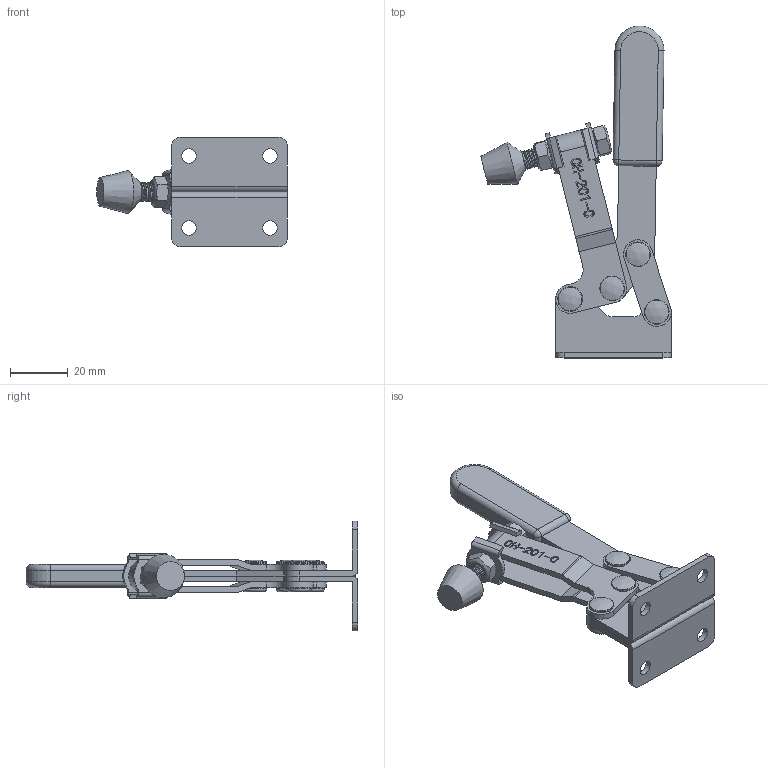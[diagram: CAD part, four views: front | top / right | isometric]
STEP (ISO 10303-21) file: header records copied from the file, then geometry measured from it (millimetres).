
FILE_DESCRIPTION(/* description */ ('STEP AP203'),/* implementation_level */ '2;1');
FILE_NAME(/* name */ 'E:\STRONA\Horizontal toggle clamp\CH-201-C\CH-201-C_OTWARTY.stp',/* time_stamp */ '2019-01-15T13:01:55+01:00',/* author */ ('Admin'),/* organization */ ('·L?¤¤?'),/* preprocessor_version */ 'ST-DEVELOPER v17.2',/* originating_system */ 'Autodesk Inventor 2019',/* authorisation */ '');
FILE_SCHEMA (('AUTOMOTIVE_DESIGN { 1 0 10303 214 3 1 1 }'));
Products named in the file (10): CH-201-C_OTWARTY; 201-C-02___; 201-C-03___; 201-C-05___; FW140___; 201-C-01___; 201-C-06___; 201-C-04___; 14134-01___; 14134___
Assembly tree (15 placements, depth 2):
  CH-201-C_OTWARTY
    201-C-02___
    201-C-06___  x4
    201-C-03___
    14134-01___  x2
    201-C-04___  x2
    201-C-05___
    FW140___  x2
    201-C-01___
    14134___
Bounding box: 65.94 x 114.9 x 38 mm (x, y, z)
Volume: 22910.3 mm3; surface area: 26694.2 mm2
Topology: 17 solids, 19 shells, 621 faces, 1719 edges, 1163 vertices
Faces by surface type: plane 260, bspline 182, cylinder 135, torus 18, cone 18, sphere 8
Full cylindrical faces by diameter (mm): 2.861 x1, 3.42 x4, 3.6 x1, 4.7 x4, 4.77 x8, 4.8 x8, 5 x4, 5.1 x6, 6.3 x2, 6.4 x26, 8.5 x8
Entity records: 37514 total; most frequent: CARTESIAN_POINT 24434, ORIENTED_EDGE 2980, DIRECTION 2038, EDGE_CURVE 1490, VERTEX_POINT 1004, LINE 804, VECTOR 804, AXIS2_PLACEMENT_3D 617
